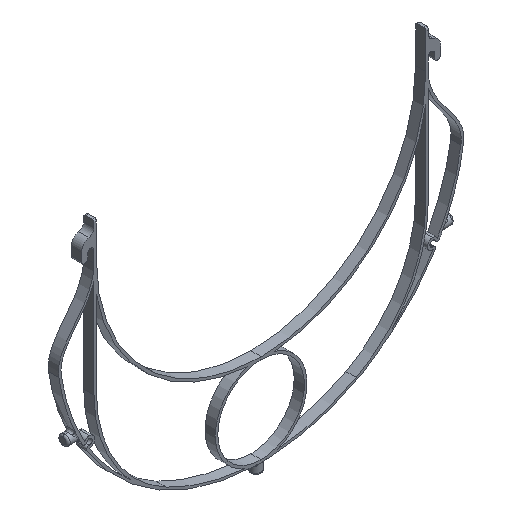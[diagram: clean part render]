
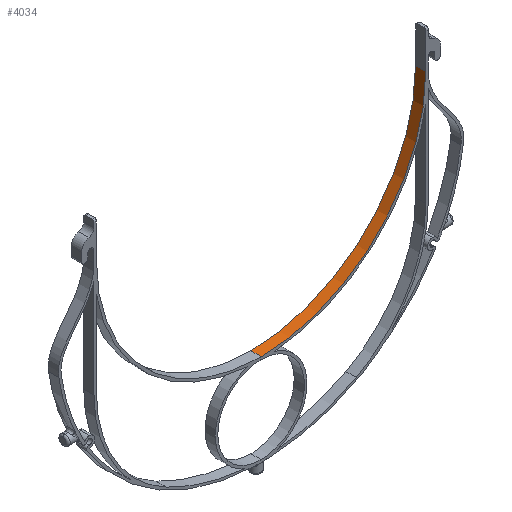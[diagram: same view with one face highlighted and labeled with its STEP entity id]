
A CAD part, isometric view. The second image highlights one B-rep face of the part: STEP entity #4034.
In plain terms, the highlighted cylindrical face has radius 79.4 mm (diameter 158.8 mm), a partial arc.
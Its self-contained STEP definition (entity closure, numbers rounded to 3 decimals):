
#210 = DIRECTION ( 'NONE',  ( 0., -1., 0. ) ) ;
#219 = VERTEX_POINT ( 'NONE', #690 ) ;
#393 = EDGE_LOOP ( 'NONE', ( #3440, #3158, #1908, #1610 ) ) ;
#435 = CARTESIAN_POINT ( 'NONE',  ( 0., 4.953, -79.4 ) ) ;
#438 = EDGE_CURVE ( 'NONE', #2949, #1218, #2524, .T. ) ;
#486 = CARTESIAN_POINT ( 'NONE',  ( 79.4, 0., 0. ) ) ;
#690 = CARTESIAN_POINT ( 'NONE',  ( 79.4, 4.953, 0. ) ) ;
#773 = CIRCLE ( 'NONE', #2433, 79.4 ) ;
#889 = VECTOR ( 'NONE', #1794, 1000. ) ;
#1218 = VERTEX_POINT ( 'NONE', #486 ) ;
#1225 = DIRECTION ( 'NONE',  ( 0., 0., -1. ) ) ;
#1260 = EDGE_CURVE ( 'NONE', #1280, #2949, #3703, .T. ) ;
#1280 = VERTEX_POINT ( 'NONE', #435 ) ;
#1405 = CARTESIAN_POINT ( 'NONE',  ( 0., 4.953, 0. ) ) ;
#1429 = CARTESIAN_POINT ( 'NONE',  ( 79.4, 4.953, 0. ) ) ;
#1473 = FACE_OUTER_BOUND ( 'NONE', #393, .T. ) ;
#1610 = ORIENTED_EDGE ( 'NONE', *, *, #4328, .F. ) ;
#1723 = LINE ( 'NONE', #1429, #889 ) ;
#1744 = CYLINDRICAL_SURFACE ( 'NONE', #3680, 79.4 ) ;
#1765 = DIRECTION ( 'NONE',  ( 1., 0., 0. ) ) ;
#1794 = DIRECTION ( 'NONE',  ( 0., -1., 0. ) ) ;
#1879 = DIRECTION ( 'NONE',  ( 0., -1., 0. ) ) ;
#1908 = ORIENTED_EDGE ( 'NONE', *, *, #438, .T. ) ;
#2089 = EDGE_CURVE ( 'NONE', #1280, #219, #773, .T. ) ;
#2250 = AXIS2_PLACEMENT_3D ( 'NONE', #2361, #210, #2726 ) ;
#2361 = CARTESIAN_POINT ( 'NONE',  ( 0., 0., 0. ) ) ;
#2433 = AXIS2_PLACEMENT_3D ( 'NONE', #1405, #3953, #1765 ) ;
#2524 = CIRCLE ( 'NONE', #2250, 79.4 ) ;
#2560 = CARTESIAN_POINT ( 'NONE',  ( 0., 4.953, -79.4 ) ) ;
#2726 = DIRECTION ( 'NONE',  ( 1., 0., 0. ) ) ;
#2837 = VECTOR ( 'NONE', #4376, 1000. ) ;
#2949 = VERTEX_POINT ( 'NONE', #4537 ) ;
#3158 = ORIENTED_EDGE ( 'NONE', *, *, #1260, .T. ) ;
#3405 = CARTESIAN_POINT ( 'NONE',  ( 0., 4.953, 0. ) ) ;
#3440 = ORIENTED_EDGE ( 'NONE', *, *, #2089, .F. ) ;
#3680 = AXIS2_PLACEMENT_3D ( 'NONE', #3405, #1879, #1225 ) ;
#3703 = LINE ( 'NONE', #2560, #2837 ) ;
#3953 = DIRECTION ( 'NONE',  ( 0., -1., 0. ) ) ;
#4034 = ADVANCED_FACE ( 'NONE', ( #1473 ), #1744, .F. ) ;
#4328 = EDGE_CURVE ( 'NONE', #219, #1218, #1723, .T. ) ;
#4376 = DIRECTION ( 'NONE',  ( 0., -1., 0. ) ) ;
#4537 = CARTESIAN_POINT ( 'NONE',  ( 0., 0., -79.4 ) ) ;
